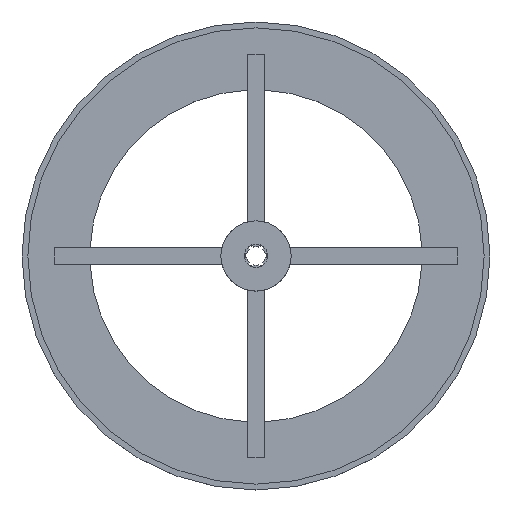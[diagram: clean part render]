
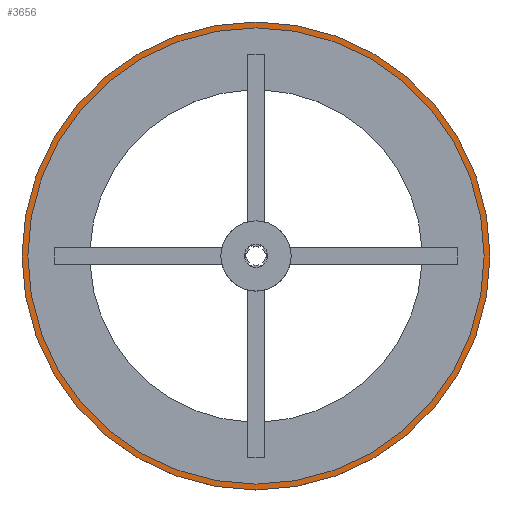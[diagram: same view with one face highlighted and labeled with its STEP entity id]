
A CAD part, top view. The second image highlights one B-rep face of the part: STEP entity #3656.
In plain terms, the highlighted planar face has unit normal (0, 0, 1).
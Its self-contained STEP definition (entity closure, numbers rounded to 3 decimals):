
#43 = CYLINDRICAL_SURFACE('',#44,100.);
#44 = AXIS2_PLACEMENT_3D('',#45,#46,#47);
#45 = CARTESIAN_POINT('',(0.,0.,3.));
#46 = DIRECTION('',(-0.,-0.,-1.));
#47 = DIRECTION('',(1.,0.,0.));
#1187 = EDGE_CURVE('',#1188,#1188,#1190,.T.);
#1188 = VERTEX_POINT('',#1189);
#1189 = CARTESIAN_POINT('',(100.,0.,5.));
#1190 = SURFACE_CURVE('',#1191,(#1196,#1203),.PCURVE_S1.);
#1191 = CIRCLE('',#1192,100.);
#1192 = AXIS2_PLACEMENT_3D('',#1193,#1194,#1195);
#1193 = CARTESIAN_POINT('',(0.,0.,5.));
#1194 = DIRECTION('',(0.,0.,1.));
#1195 = DIRECTION('',(1.,0.,0.));
#1196 = PCURVE('',#43,#1197);
#1197 = DEFINITIONAL_REPRESENTATION('',(#1198),#1202);
#1198 = LINE('',#1199,#1200);
#1199 = CARTESIAN_POINT('',(-0.,-2.));
#1200 = VECTOR('',#1201,1.);
#1201 = DIRECTION('',(-1.,0.));
#1202 = ( GEOMETRIC_REPRESENTATION_CONTEXT(2) 
PARAMETRIC_REPRESENTATION_CONTEXT() REPRESENTATION_CONTEXT('2D SPACE',''
  ) );
#1203 = PCURVE('',#1204,#1209);
#1204 = PLANE('',#1205);
#1205 = AXIS2_PLACEMENT_3D('',#1206,#1207,#1208);
#1206 = CARTESIAN_POINT('',(0.,0.,5.));
#1207 = DIRECTION('',(0.,0.,1.));
#1208 = DIRECTION('',(1.,0.,0.));
#1209 = DEFINITIONAL_REPRESENTATION('',(#1210),#1214);
#1210 = CIRCLE('',#1211,100.);
#1211 = AXIS2_PLACEMENT_2D('',#1212,#1213);
#1212 = CARTESIAN_POINT('',(0.,0.));
#1213 = DIRECTION('',(1.,0.));
#1214 = ( GEOMETRIC_REPRESENTATION_CONTEXT(2) 
PARAMETRIC_REPRESENTATION_CONTEXT() REPRESENTATION_CONTEXT('2D SPACE',''
  ) );
#3656 = ADVANCED_FACE('',(#3657,#3660),#1204,.T.);
#3657 = FACE_BOUND('',#3658,.T.);
#3658 = EDGE_LOOP('',(#3659));
#3659 = ORIENTED_EDGE('',*,*,#1187,.T.);
#3660 = FACE_BOUND('',#3661,.T.);
#3661 = EDGE_LOOP('',(#3662));
#3662 = ORIENTED_EDGE('',*,*,#3663,.F.);
#3663 = EDGE_CURVE('',#3664,#3664,#3666,.T.);
#3664 = VERTEX_POINT('',#3665);
#3665 = CARTESIAN_POINT('',(97.5,0.,5.));
#3666 = SURFACE_CURVE('',#3667,(#3672,#3679),.PCURVE_S1.);
#3667 = CIRCLE('',#3668,97.5);
#3668 = AXIS2_PLACEMENT_3D('',#3669,#3670,#3671);
#3669 = CARTESIAN_POINT('',(0.,0.,5.));
#3670 = DIRECTION('',(0.,0.,1.));
#3671 = DIRECTION('',(1.,0.,0.));
#3672 = PCURVE('',#1204,#3673);
#3673 = DEFINITIONAL_REPRESENTATION('',(#3674),#3678);
#3674 = CIRCLE('',#3675,97.5);
#3675 = AXIS2_PLACEMENT_2D('',#3676,#3677);
#3676 = CARTESIAN_POINT('',(0.,0.));
#3677 = DIRECTION('',(1.,0.));
#3678 = ( GEOMETRIC_REPRESENTATION_CONTEXT(2) 
PARAMETRIC_REPRESENTATION_CONTEXT() REPRESENTATION_CONTEXT('2D SPACE',''
  ) );
#3679 = PCURVE('',#3680,#3685);
#3680 = CYLINDRICAL_SURFACE('',#3681,97.5);
#3681 = AXIS2_PLACEMENT_3D('',#3682,#3683,#3684);
#3682 = CARTESIAN_POINT('',(0.,0.,3.));
#3683 = DIRECTION('',(-0.,-0.,-1.));
#3684 = DIRECTION('',(1.,0.,0.));
#3685 = DEFINITIONAL_REPRESENTATION('',(#3686),#3690);
#3686 = LINE('',#3687,#3688);
#3687 = CARTESIAN_POINT('',(-0.,-2.));
#3688 = VECTOR('',#3689,1.);
#3689 = DIRECTION('',(-1.,0.));
#3690 = ( GEOMETRIC_REPRESENTATION_CONTEXT(2) 
PARAMETRIC_REPRESENTATION_CONTEXT() REPRESENTATION_CONTEXT('2D SPACE',''
  ) );
